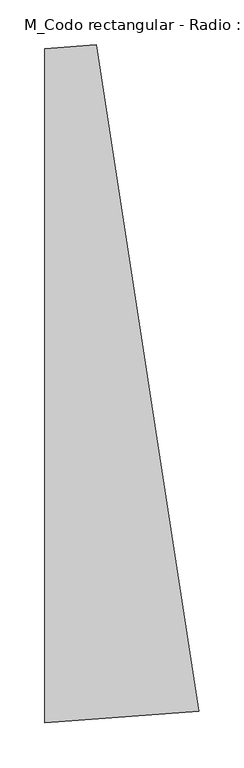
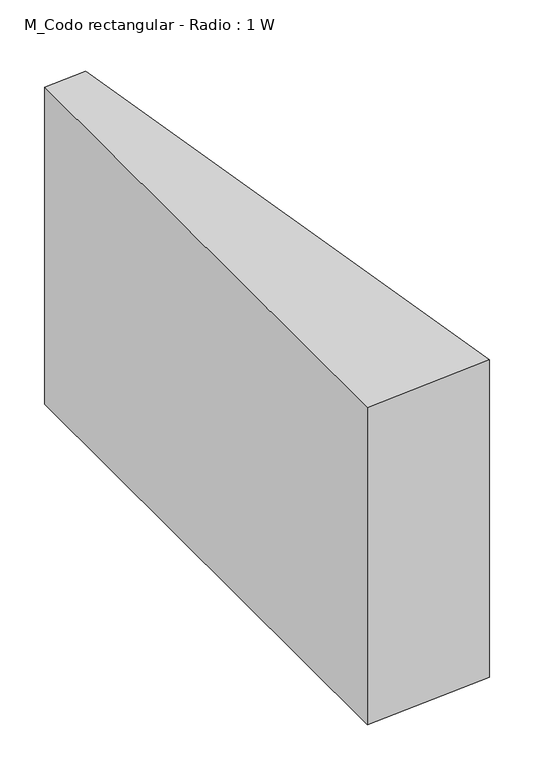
"""IFC4 building model written with IfcOpenShell, lengths in millimetres: duct fitting geometry, M_Codo rectangular - Radio : 1 W."""

from ifc_helpers import new_model, si_unit, point, frame, frame_2d, origin, place, context, project, spatial, polyline, circle_curve, trimmed, segment, composite_curve, outline, extrude, source, transform, mapped, element, save


def m_codo_rectangular_radio_1_w_e5043340(model_context):
    return source(origin(), model_context, "Body", "SweptSolid", [
        extrude(outline(composite_curve([segment(trimmed(circle_curve(frame_2d((-57.4172761, 750.0)), 1125.0), [point((113.8308876, -361.8898626))], [point((-57.4172761, -375.0))], False, "CARTESIAN"), True, "CONTINUOUS"), segment(polyline([(-57.4172761, -375.0), (-57.4172761, 375.0)]), True, "CONTINUOUS"), segment(trimmed(circle_curve(frame_2d((-57.4172761, 750.0)), 375.0), [point((-57.4172761, 375.0))], [point((-0.3345548, 379.3700458))], True, "CARTESIAN"), True, "CONTINUOUS"), segment(polyline([(-0.3345548, 379.3700458), (113.8308876, -361.8898626)]), True, "CONTINUOUS")], self_intersect=False)), frame((0.0, 0.0, -225.0), z_axis=(0.0, 0.0, 1.0), x_axis=(1.0, 0.0, 0.0)), (0.0, 0.0, 1.0), 450.0),
    ])


if __name__ == "__main__":
    model = new_model("IFC4")
    model_context = context("Model", 3, world=origin())
    ifc_project = project(units=[si_unit("LENGTHUNIT", "METRE", prefix="MILLI")], contexts=[model_context])
    site = spatial("IfcSite", under=ifc_project)
    building = spatial("IfcBuilding", under=site)
    placement = place(None, origin())
    m_codo_rectangular_radio_1_w_shape = m_codo_rectangular_radio_1_w_e5043340(model_context)
    element("IfcDuctFitting", 1, ObjectType="M_Codo rectangular - Radio : 1 W", at=placement, inside=building, context=model_context, shape_type="MappedRepresentation", body=[
        mapped(m_codo_rectangular_radio_1_w_shape, transform((0.0, 0.0, 0.0), x_axis=(1.0, 0.0, 0.0), y_axis=(0.0, 1.0, 0.0), z_axis=(0.0, 0.0, 1.0))),
    ])
    save(model, "model.ifc")
